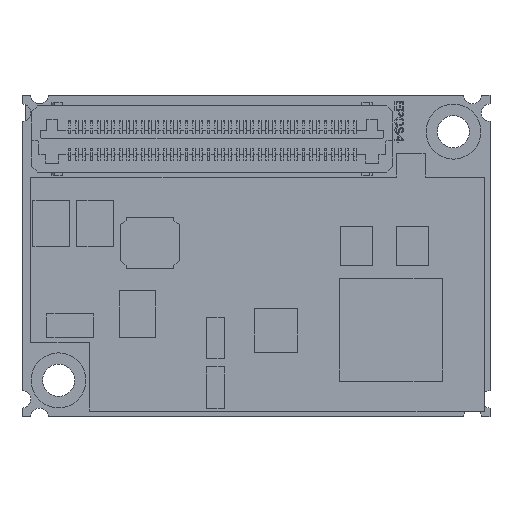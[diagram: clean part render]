
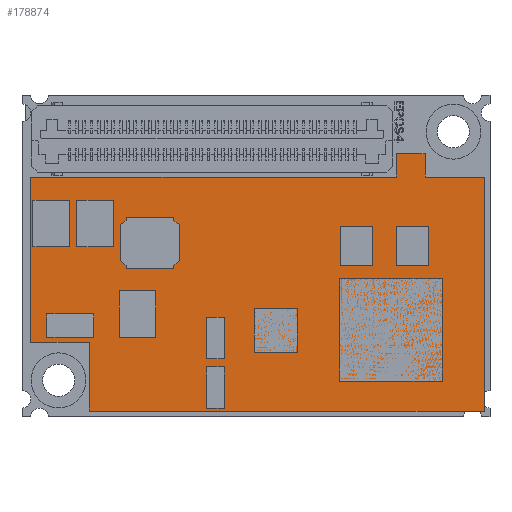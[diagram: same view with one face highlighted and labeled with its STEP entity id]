
A CAD part, front view. The second image highlights one B-rep face of the part: STEP entity #178874.
In plain terms, the highlighted planar face has unit normal (0, -1, 0).
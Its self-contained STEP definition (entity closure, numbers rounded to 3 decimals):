
#178597=DIRECTION('',(1.,0.,0.));
#178598=VECTOR('',#178597,4.7);
#178599=CARTESIAN_POINT('',(0.,0.,-4.));
#178600=LINE('',#178599,#178598);
#178604=DIRECTION('',(0.,0.,-1.));
#178605=VECTOR('',#178604,4.);
#178606=CARTESIAN_POINT('',(4.7,0.,0.));
#178607=LINE('',#178606,#178605);
#178611=DIRECTION('',(1.,0.,0.));
#178612=VECTOR('',#178611,11.3);
#178613=CARTESIAN_POINT('',(4.7,0.,0.));
#178614=LINE('',#178613,#178612);
#178618=DIRECTION('',(0.,0.,-1.));
#178619=VECTOR('',#178618,25.);
#178620=CARTESIAN_POINT('',(16.,0.,0.));
#178621=LINE('',#178620,#178619);
#178625=DIRECTION('',(1.,0.,0.));
#178626=VECTOR('',#178625,1.6);
#178627=CARTESIAN_POINT('',(16.,0.,-25.));
#178628=LINE('',#178627,#178626);
#178632=DIRECTION('',(0.,0.,-1.));
#178633=VECTOR('',#178632,1.96);
#178634=CARTESIAN_POINT('',(17.6,0.,-25.));
#178635=LINE('',#178634,#178633);
#178639=DIRECTION('',(-1.,0.,0.));
#178640=VECTOR('',#178639,1.6);
#178641=CARTESIAN_POINT('',(17.6,0.,-26.96));
#178642=LINE('',#178641,#178640);
#178646=DIRECTION('',(0.,0.,-1.));
#178647=VECTOR('',#178646,4.04);
#178648=CARTESIAN_POINT('',(16.,0.,-26.96));
#178649=LINE('',#178648,#178647);
#178653=DIRECTION('',(-1.,0.,0.));
#178654=VECTOR('',#178653,16.);
#178655=CARTESIAN_POINT('',(16.,0.,-31.));
#178656=LINE('',#178655,#178654);
#178660=DIRECTION('',(0.,0.,1.));
#178661=VECTOR('',#178660,27.);
#178662=CARTESIAN_POINT('',(0.,0.,-31.));
#178663=LINE('',#178662,#178661);
#178807=CARTESIAN_POINT('',(16.,0.,0.));
#178808=CARTESIAN_POINT('',(16.,0.,-25.));
#178809=VERTEX_POINT('',#178807);
#178810=VERTEX_POINT('',#178808);
#178811=CARTESIAN_POINT('',(16.,0.,-31.));
#178812=CARTESIAN_POINT('',(0.,0.,-31.));
#178813=VERTEX_POINT('',#178811);
#178814=VERTEX_POINT('',#178812);
#178823=CARTESIAN_POINT('',(0.,0.,-4.));
#178824=CARTESIAN_POINT('',(4.7,0.,-4.));
#178825=VERTEX_POINT('',#178823);
#178826=VERTEX_POINT('',#178824);
#178827=CARTESIAN_POINT('',(4.7,0.,0.));
#178828=VERTEX_POINT('',#178827);
#178835=CARTESIAN_POINT('',(17.6,0.,-25.));
#178836=VERTEX_POINT('',#178835);
#178837=CARTESIAN_POINT('',(17.6,0.,-26.96));
#178838=VERTEX_POINT('',#178837);
#178839=CARTESIAN_POINT('',(16.,0.,-26.96));
#178840=VERTEX_POINT('',#178839);
#178847=CARTESIAN_POINT('',(0.,0.,0.));
#178848=DIRECTION('',(0.,1.,0.));
#178849=DIRECTION('',(1.,0.,0.));
#178850=AXIS2_PLACEMENT_3D('',#178847,#178848,#178849);
#178851=PLANE('',#178850);
#178853=ORIENTED_EDGE('',*,*,#178852,.T.);
#178855=ORIENTED_EDGE('',*,*,#178854,.F.);
#178857=ORIENTED_EDGE('',*,*,#178856,.T.);
#178859=ORIENTED_EDGE('',*,*,#178858,.T.);
#178861=ORIENTED_EDGE('',*,*,#178860,.T.);
#178863=ORIENTED_EDGE('',*,*,#178862,.T.);
#178865=ORIENTED_EDGE('',*,*,#178864,.T.);
#178867=ORIENTED_EDGE('',*,*,#178866,.T.);
#178869=ORIENTED_EDGE('',*,*,#178868,.T.);
#178871=ORIENTED_EDGE('',*,*,#178870,.T.);
#178872=EDGE_LOOP('',(#178853,#178855,#178857,#178859,#178861,#178863,#178865,
#178867,#178869,#178871));
#178873=FACE_OUTER_BOUND('',#178872,.F.);
#178874=ADVANCED_FACE('',(#178873),#178851,.F.);
#178852=EDGE_CURVE('',#178825,#178826,#178600,.T.);
#178854=EDGE_CURVE('',#178828,#178826,#178607,.T.);
#178856=EDGE_CURVE('',#178828,#178809,#178614,.T.);
#178858=EDGE_CURVE('',#178809,#178810,#178621,.T.);
#178860=EDGE_CURVE('',#178810,#178836,#178628,.T.);
#178862=EDGE_CURVE('',#178836,#178838,#178635,.T.);
#178864=EDGE_CURVE('',#178838,#178840,#178642,.T.);
#178866=EDGE_CURVE('',#178840,#178813,#178649,.T.);
#178868=EDGE_CURVE('',#178813,#178814,#178656,.T.);
#178870=EDGE_CURVE('',#178814,#178825,#178663,.T.);
